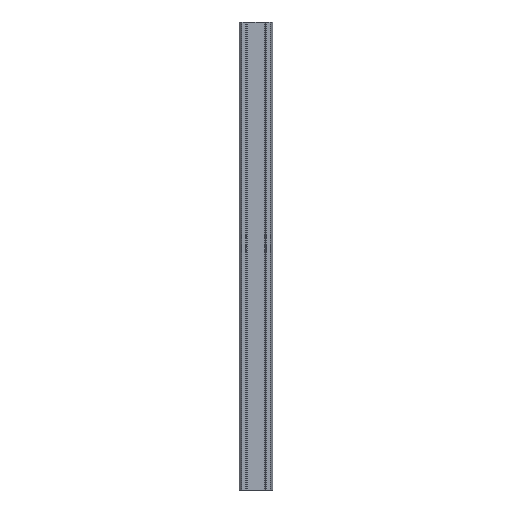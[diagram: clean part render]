
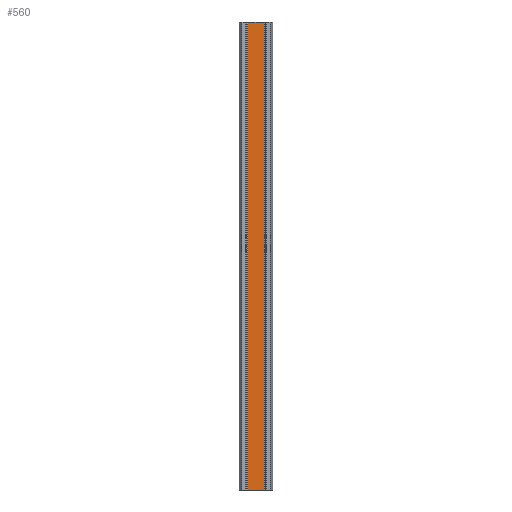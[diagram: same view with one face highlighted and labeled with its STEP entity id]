
A CAD part, front view. The second image highlights one B-rep face of the part: STEP entity #560.
In plain terms, the highlighted planar face has unit normal (0, -1, 0).
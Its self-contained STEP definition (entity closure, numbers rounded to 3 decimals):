
#20 = CARTESIAN_POINT ( 'NONE',  ( -1.722, 5.2, 900. ) ) ;
#74 = DIRECTION ( 'NONE',  ( 1., 0., 0. ) ) ;
#87 = CARTESIAN_POINT ( 'NONE',  ( -1.722, 5.2, 900. ) ) ;
#95 = EDGE_CURVE ( 'NONE', #756, #279, #712, .T. ) ;
#128 = LINE ( 'NONE', #486, #331 ) ;
#167 = ORIENTED_EDGE ( 'NONE', *, *, #248, .F. ) ;
#191 = DIRECTION ( 'NONE',  ( 0., -1., 0. ) ) ;
#194 = CARTESIAN_POINT ( 'NONE',  ( -1.722, 5.2, 1000. ) ) ;
#222 = DIRECTION ( 'NONE',  ( 1., 0., 0. ) ) ;
#248 = EDGE_CURVE ( 'NONE', #736, #601, #128, .T. ) ;
#279 = VERTEX_POINT ( 'NONE', #636 ) ;
#280 = EDGE_CURVE ( 'NONE', #736, #756, #679, .T. ) ;
#328 = DIRECTION ( 'NONE',  ( 0., 0., 1. ) ) ;
#331 = VECTOR ( 'NONE', #488, 1000. ) ;
#340 = CARTESIAN_POINT ( 'NONE',  ( -1.722, 5.2, 900. ) ) ;
#439 = ORIENTED_EDGE ( 'NONE', *, *, #280, .T. ) ;
#455 = EDGE_CURVE ( 'NONE', #601, #279, #746, .T. ) ;
#486 = CARTESIAN_POINT ( 'NONE',  ( -1.722, 5.2, 900. ) ) ;
#488 = DIRECTION ( 'NONE',  ( 0., 0., 1. ) ) ;
#490 = PLANE ( 'NONE',  #752 ) ;
#523 = VECTOR ( 'NONE', #590, 1000. ) ;
#560 = ADVANCED_FACE ( 'NONE', ( #881 ), #490, .T. ) ;
#590 = DIRECTION ( 'NONE',  ( 1., 0., 0. ) ) ;
#601 = VERTEX_POINT ( 'NONE', #194 ) ;
#610 = CARTESIAN_POINT ( 'NONE',  ( 1.722, 5.2, 900. ) ) ;
#620 = VECTOR ( 'NONE', #328, 1000. ) ;
#631 = EDGE_LOOP ( 'NONE', ( #868, #167, #439, #700 ) ) ;
#636 = CARTESIAN_POINT ( 'NONE',  ( 1.722, 5.2, 1000. ) ) ;
#679 = LINE ( 'NONE', #87, #523 ) ;
#700 = ORIENTED_EDGE ( 'NONE', *, *, #95, .T. ) ;
#712 = LINE ( 'NONE', #610, #620 ) ;
#720 = CARTESIAN_POINT ( 'NONE',  ( 1.722, 5.2, 900. ) ) ;
#736 = VERTEX_POINT ( 'NONE', #20 ) ;
#746 = LINE ( 'NONE', #814, #855 ) ;
#752 = AXIS2_PLACEMENT_3D ( 'NONE', #340, #191, #74 ) ;
#756 = VERTEX_POINT ( 'NONE', #720 ) ;
#814 = CARTESIAN_POINT ( 'NONE',  ( -1.722, 5.2, 1000. ) ) ;
#855 = VECTOR ( 'NONE', #222, 1000. ) ;
#868 = ORIENTED_EDGE ( 'NONE', *, *, #455, .F. ) ;
#881 = FACE_OUTER_BOUND ( 'NONE', #631, .T. ) ;
